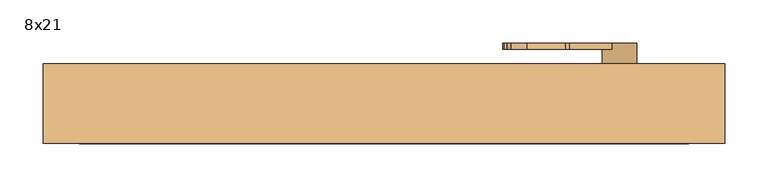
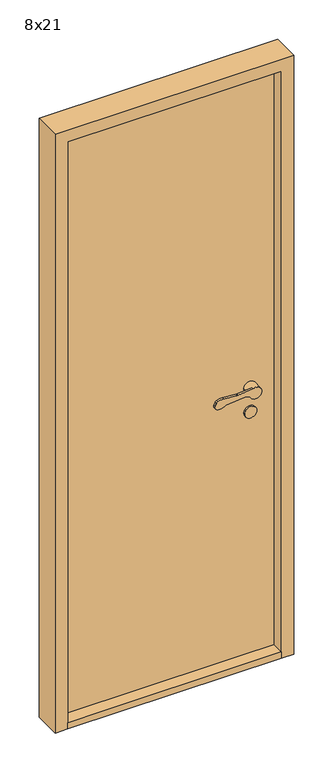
"""IFC4 building model written with IfcOpenShell, lengths in millimetres: door geometry, Innerdør Slett (Diplomat) : 8x21."""

from ifc_helpers import new_model, si_unit, point, frame, frame_2d, origin, origin_with_axes, place, context, project, spatial, polyline, circle_curve, trimmed, segment, composite_curve, outline, extrude, source, transform, mapped, element, save
from ifc_brep_helpers import plane_surface, cylinder_surface, revolved_surface, advanced_brep


def door_8x21_e5ab1b51(model_context):
    return source(origin(), model_context, "Body", "SolidModel", [
        advanced_brep(
        [(293.9611305, -9.0, 949.1175955), (308.3841161, -9.0, 942.6204086), (346.379633, -9.0, 951.3474568), (317.2687793, -9.0, 969.1517356), (268.6891233, -9.0, 964.26032), (263.6202158, -9.0, 964.1804415), (218.8963175, -9.0, 967.2639242), (200.3175669, -9.0, 964.8810513), (195.505009, -9.0, 959.9624074), (191.8691983, -9.0, 951.8913379), (196.721536, -9.0, 938.7393398), (226.0476109, -9.0, 943.6260011), (288.8520664, -9.0, 949.9496913), (268.6891233, -1.8915284, 964.26032), (317.2687793, -1.8915284, 969.1517356), (306.379633, -1.8915284, 951.3474568), (308.3841161, -1.8915284, 942.6204086), (293.9611305, -1.8915284, 949.1175955), (288.8520664, -1.8915284, 949.9496913), (226.0476109, -1.8915284, 943.6260011), (196.721536, -1.8915284, 938.7393398), (191.8691983, -1.8915284, 951.8913379), (195.505009, -1.8915284, 959.9624074), (200.3175669, -1.8915284, 964.8810513), (218.8963175, -1.8915284, 967.2639242), (263.6202158, -1.8915284, 964.1804415), (346.379633, 26.0, 951.3474568), (306.379633, 26.0, 951.3474568)],
        [
            (0, 1),
            (1, 2, circle_curve(frame((326.379633, -9.0, 951.3474568), z_axis=(0.0, -1.0, 0.0), x_axis=(-1.0, 0.0, 0.0)), 20.0)),
            (2, 3, circle_curve(frame((326.379633, -9.0, 951.3474568), z_axis=(0.0, -1.0, 0.0), x_axis=(-1.0, 0.0, 0.0)), 20.0)),
            (3, 4),
            (4, 5, circle_curve(frame((265.683663, -9.0, 994.1093938), z_axis=(0.0, 1.0, 0.0), x_axis=(-0.9949691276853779, 0.0, -0.10018200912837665)), 30.0)),
            (5, 6),
            (6, 7, circle_curve(frame((213.2326797, -9.0, 937.8033877), z_axis=(0.0, -1.0, 0.0), x_axis=(-0.9949691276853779, 0.0, -0.10018200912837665)), 30.0)),
            (7, 8, circle_curve(frame((204.6226045, -9.0, 955.8551634), z_axis=(0.0, -1.0, 0.0), x_axis=(-0.9949691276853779, 0.0, -0.10018200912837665)), 10.0)),
            (8, 9),
            (9, 10, circle_curve(frame((200.9867937, -9.0, 947.7840939), z_axis=(0.0, -1.0, 0.0), x_axis=(-0.9949691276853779, 0.0, -0.10018200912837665)), 10.0)),
            (10, 11, circle_curve(frame((207.8569644, -9.0, 962.352734), z_axis=(0.0, -1.0, 0.0), x_axis=(-0.9949691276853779, 0.0, -0.10018200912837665)), 26.1072815)),
            (11, 12),
            (12, 0, circle_curve(frame((289.8538865, -9.0, 940.0), z_axis=(0.0, 1.0, 0.0), x_axis=(-0.9949691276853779, 0.0, -0.10018200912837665)), 10.0)),
            (13, 14),
            (14, 15, circle_curve(frame((326.379633, -1.8915284, 951.3474568), z_axis=(0.0, -1.0, 0.0), x_axis=(-1.0, 0.0, 0.0)), 20.0)),
            (15, 16, circle_curve(frame((326.379633, -1.8915284, 951.3474568), z_axis=(0.0, -1.0, 0.0), x_axis=(-1.0, 0.0, 0.0)), 20.0)),
            (16, 17),
            (17, 18, circle_curve(frame((289.8538865, -1.8915284, 940.0), z_axis=(0.0, -1.0, 0.0), x_axis=(-0.9949691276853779, 0.0, -0.10018200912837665)), 10.0)),
            (18, 19),
            (19, 20, circle_curve(frame((207.8569644, -1.8915284, 962.352734), z_axis=(0.0, 1.0, 0.0), x_axis=(-0.9949691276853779, 0.0, -0.10018200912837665)), 26.1072815)),
            (20, 21, circle_curve(frame((200.9867937, -1.8915284, 947.7840939), z_axis=(0.0, 1.0, 0.0), x_axis=(-0.9949691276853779, 0.0, -0.10018200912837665)), 10.0)),
            (21, 22),
            (22, 23, circle_curve(frame((204.6226045, -1.8915284, 955.8551634), z_axis=(0.0, 1.0, 0.0), x_axis=(-0.9949691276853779, 0.0, -0.10018200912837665)), 10.0)),
            (23, 24, circle_curve(frame((213.2326797, -1.8915284, 937.8033877), z_axis=(0.0, 1.0, 0.0), x_axis=(-0.9949691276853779, 0.0, -0.10018200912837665)), 30.0)),
            (24, 25),
            (25, 13, circle_curve(frame((265.683663, -1.8915284, 994.1093938), z_axis=(0.0, -1.0, 0.0), x_axis=(-0.9949691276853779, 0.0, -0.10018200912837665)), 30.0)),
            (3, 14),
            (13, 4),
            (16, 1),
            (0, 17),
            (12, 18),
            (11, 19),
            (10, 20),
            (9, 21),
            (8, 22),
            (7, 23),
            (6, 24),
            (5, 25),
            (26, 27, circle_curve(frame((326.379633, 26.0, 951.3474568), z_axis=(0.0, 1.0, 0.0), x_axis=(-1.0, 0.0, 0.0)), 20.0)),
            (27, 26, circle_curve(frame((326.379633, 26.0, 951.3474568), z_axis=(0.0, 1.0, 0.0), x_axis=(-1.0, 0.0, 0.0)), 20.0)),
            (26, 2),
            (15, 27),
        ],
        [
            plane_surface(frame((317.6960588, -9.0, 969.1947577), z_axis=(0.0, -1.0000000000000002, 0.0), x_axis=(0.9949691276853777, 0.0, 0.10018200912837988))),
            plane_surface(frame((317.6960588, -1.8915284, 969.1947577), z_axis=(0.0, 1.0000000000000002, 0.0), x_axis=(-0.9949691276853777, 0.0, -0.10018200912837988))),
            plane_surface(frame((268.6891233, -9.0, 964.26032), z_axis=(-0.10018200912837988, 0.0, 0.9949691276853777), x_axis=(0.0, 1.0, 0.0))),
            plane_surface(frame((326.9687366, -9.0, 934.2485115), z_axis=(-0.41072439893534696, 0.0, -0.91175954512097), x_axis=(0.0, 1.0, 0.0))),
            revolved_surface(polyline([(279.9041952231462, -1.8915284, 938.9981799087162), (279.9041952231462, -9.0, 938.9981799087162)]), (289.8538865, -1.8915284, 940.0), (0.0, 1.0, 0.0)),
            plane_surface(frame((288.8520664, -9.0, 949.9496913), z_axis=(0.10018200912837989, 0.0, -0.9949691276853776), x_axis=(0.0, 1.0, 0.0))),
            cylinder_surface(frame((207.8569644, -1.8915284, 962.352734), z_axis=(0.0, -1.0, 0.0), x_axis=(-0.9949691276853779, 0.0, -0.10018200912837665)), 26.1072815),
            cylinder_surface(frame((200.9867937, -1.8915284, 947.7840939), z_axis=(0.0, -1.0, 0.0), x_axis=(-0.9949691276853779, 0.0, -0.10018200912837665)), 10.0),
            plane_surface(frame((191.8691983, -9.0, 951.8913379), z_axis=(-0.9117595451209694, 0.0, 0.41072439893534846), x_axis=(0.0, 1.0, 0.0))),
            cylinder_surface(frame((204.6226045, -1.8915284, 955.8551634), z_axis=(0.0, -1.0, 0.0), x_axis=(-0.9949691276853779, 0.0, -0.10018200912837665)), 10.0),
            cylinder_surface(frame((213.2326797, -1.8915284, 937.8033877), z_axis=(0.0, -1.0, 0.0), x_axis=(-0.9949691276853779, 0.0, -0.10018200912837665)), 30.0),
            plane_surface(frame((218.8963175, -9.0, 967.2639242), z_axis=(0.06878157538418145, 0.0, 0.9976317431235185), x_axis=(0.0, 1.0, 0.0))),
            revolved_surface(polyline([(235.8345891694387, -1.8915284, 991.1039335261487), (235.8345891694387, -9.0, 991.1039335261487)]), (265.683663, -1.8915284, 994.1093938), (0.0, 1.0, 0.0)),
            plane_surface(frame((306.379633, 26.0, 951.3474568), z_axis=(0.0, 1.0, 0.0), x_axis=(0.0, 0.0, -1.0))),
            cylinder_surface(frame((326.379633, 26.0, 951.3474568), z_axis=(0.0, -1.0, 0.0), x_axis=(-1.0, 0.0, 0.0)), 20.0),
        ],
        [
            (0, [[1, 2, 3, 4, 5, 6, 7, 8, 9, 10, 11, 12, 13]]),
            (1, [[14, 15, 16, 17, 18, 19, 20, 21, 22, 23, 24, 25, 26]]),
            (2, [[-4, 27, -14, 28]]),
            (3, [[-17, 29, -1, 30]]),
            (4, [[31, -18, -30, -13]]),
            (5, [[32, -19, -31, -12]]),
            (6, [[33, -20, -32, -11]]),
            (7, [[34, -21, -33, -10]]),
            (8, [[35, -22, -34, -9]]),
            (9, [[36, -23, -35, -8]]),
            (10, [[37, -24, -36, -7]]),
            (11, [[38, -25, -37, -6]]),
            (12, [[-28, -26, -38, -5]]),
            (13, [[39, 40]]),
            (14, [[41, -2, -29, -16, 42, -39]]),
            (14, [[-42, -15, -27, -3, -41, -40]]),
        ],
    ),
        extrude(outline(composite_curve([segment(trimmed(circle_curve(frame_2d((866.3474568, 326.379633)), 20.0), [point((866.3474568, 346.379633))], [point((866.3474568, 306.379633))], False, "CARTESIAN"), True, "CONTINUOUS"), segment(trimmed(circle_curve(frame_2d((866.3474568, 326.379633)), 20.0), [point((866.3474568, 306.379633))], [point((866.3474568, 346.379633))], False, "CARTESIAN"), True, "CONTINUOUS")], self_intersect=False)), frame((0.0, 21.0, 0.0), z_axis=(0.0, 1.0, 0.0), x_axis=(0.0, 0.0, 1.0)), (0.0, 0.0, 1.0), 5.0),
        advanced_brep(
        [(293.9611305, 100.0, 949.1175955), (288.8520664, 100.0, 949.9496913), (226.0476109, 100.0, 943.6260011), (196.721536, 100.0, 938.7393398), (191.8691983, 100.0, 951.8913379), (195.505009, 100.0, 959.9624074), (200.3175669, 100.0, 964.8810513), (218.8963175, 100.0, 967.2639242), (263.6202158, 100.0, 964.1804415), (268.6891233, 100.0, 964.26032), (317.2687793, 100.0, 969.1517356), (346.379633, 100.0, 951.3474568), (308.3841161, 100.0, 942.6204086), (268.6891233, 92.8915284, 964.26032), (263.6202158, 92.8915284, 964.1804415), (218.8963175, 92.8915284, 967.2639242), (200.3175669, 92.8915284, 964.8810513), (195.505009, 92.8915284, 959.9624074), (191.8691983, 92.8915284, 951.8913379), (196.721536, 92.8915284, 938.7393398), (226.0476109, 92.8915284, 943.6260011), (288.8520664, 92.8915284, 949.9496913), (293.9611305, 92.8915284, 949.1175955), (308.3841161, 92.8915284, 942.6204086), (306.379633, 92.8915284, 951.3474568), (317.2687793, 92.8915284, 969.1517356), (346.379633, 65.0, 951.3474568), (306.379633, 65.0, 951.3474568)],
        [
            (0, 1, circle_curve(frame((289.8538865, 100.0, 940.0), z_axis=(0.0, -1.0, 0.0), x_axis=(-0.9949691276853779, 0.0, -0.10018200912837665)), 10.0)),
            (1, 2),
            (2, 3, circle_curve(frame((207.8569644, 100.0, 962.352734), z_axis=(0.0, 1.0, 0.0), x_axis=(-0.9949691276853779, 0.0, -0.10018200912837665)), 26.1072815)),
            (3, 4, circle_curve(frame((200.9867937, 100.0, 947.7840939), z_axis=(0.0, 1.0, 0.0), x_axis=(-0.9949691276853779, 0.0, -0.10018200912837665)), 10.0)),
            (4, 5),
            (5, 6, circle_curve(frame((204.6226045, 100.0, 955.8551634), z_axis=(0.0, 1.0, 0.0), x_axis=(-0.9949691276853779, 0.0, -0.10018200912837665)), 10.0)),
            (6, 7, circle_curve(frame((213.2326797, 100.0, 937.8033877), z_axis=(0.0, 1.0, 0.0), x_axis=(-0.9949691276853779, 0.0, -0.10018200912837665)), 30.0)),
            (7, 8),
            (8, 9, circle_curve(frame((265.683663, 100.0, 994.1093938), z_axis=(0.0, -1.0, 0.0), x_axis=(-0.9949691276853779, 0.0, -0.10018200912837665)), 30.0)),
            (9, 10),
            (10, 11, circle_curve(frame((326.379633, 100.0, 951.3474568), z_axis=(0.0, 1.0, 0.0), x_axis=(-1.0, 0.0, 0.0)), 20.0)),
            (11, 12, circle_curve(frame((326.379633, 100.0, 951.3474568), z_axis=(0.0, 1.0, 0.0), x_axis=(-1.0, 0.0, 0.0)), 20.0)),
            (12, 0),
            (13, 14, circle_curve(frame((265.683663, 92.8915284, 994.1093938), z_axis=(0.0, 1.0, 0.0), x_axis=(-0.9949691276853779, 0.0, -0.10018200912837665)), 30.0)),
            (14, 15),
            (15, 16, circle_curve(frame((213.2326797, 92.8915284, 937.8033877), z_axis=(0.0, -1.0, 0.0), x_axis=(-0.9949691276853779, 0.0, -0.10018200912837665)), 30.0)),
            (16, 17, circle_curve(frame((204.6226045, 92.8915284, 955.8551634), z_axis=(0.0, -1.0, 0.0), x_axis=(-0.9949691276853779, 0.0, -0.10018200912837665)), 10.0)),
            (17, 18),
            (18, 19, circle_curve(frame((200.9867937, 92.8915284, 947.7840939), z_axis=(0.0, -1.0, 0.0), x_axis=(-0.9949691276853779, 0.0, -0.10018200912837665)), 10.0)),
            (19, 20, circle_curve(frame((207.8569644, 92.8915284, 962.352734), z_axis=(0.0, -1.0, 0.0), x_axis=(-0.9949691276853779, 0.0, -0.10018200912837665)), 26.1072815)),
            (20, 21),
            (21, 22, circle_curve(frame((289.8538865, 92.8915284, 940.0), z_axis=(0.0, 1.0, 0.0), x_axis=(-0.9949691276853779, 0.0, -0.10018200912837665)), 10.0)),
            (22, 23),
            (23, 24, circle_curve(frame((326.379633, 92.8915284, 951.3474568), z_axis=(0.0, 1.0, 0.0), x_axis=(-1.0, 0.0, 0.0)), 20.0)),
            (24, 25, circle_curve(frame((326.379633, 92.8915284, 951.3474568), z_axis=(0.0, 1.0, 0.0), x_axis=(-1.0, 0.0, 0.0)), 20.0)),
            (25, 13),
            (9, 13),
            (25, 10),
            (22, 0),
            (12, 23),
            (21, 1),
            (20, 2),
            (19, 3),
            (18, 4),
            (17, 5),
            (16, 6),
            (15, 7),
            (14, 8),
            (26, 27, circle_curve(frame((326.379633, 65.0, 951.3474568), z_axis=(0.0, -1.0, 0.0), x_axis=(-1.0, 0.0, 0.0)), 20.0)),
            (27, 26, circle_curve(frame((326.379633, 65.0, 951.3474568), z_axis=(0.0, -1.0, 0.0), x_axis=(-1.0, 0.0, 0.0)), 20.0)),
            (27, 24),
            (11, 26),
        ],
        [
            plane_surface(frame((317.6960588, 100.0, 969.1947577), z_axis=(0.0, 1.0000000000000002, 0.0), x_axis=(0.9949691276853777, 0.0, 0.10018200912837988))),
            plane_surface(frame((317.6960588, 92.8915284, 969.1947577), z_axis=(0.0, -1.0000000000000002, 0.0), x_axis=(-0.9949691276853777, 0.0, -0.10018200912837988))),
            plane_surface(frame((268.6891233, 100.0, 964.26032), z_axis=(-0.10018200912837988, 0.0, 0.9949691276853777), x_axis=(0.0, -1.0, 0.0))),
            plane_surface(frame((326.9687366, 100.0, 934.2485115), z_axis=(-0.41072439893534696, 0.0, -0.91175954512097), x_axis=(0.0, -1.0, 0.0))),
            revolved_surface(polyline([(279.9041952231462, 92.8915284, 938.9981799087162), (279.9041952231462, 100.0, 938.9981799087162)]), (289.8538865, 92.8915284, 940.0), (0.0, -1.0, 0.0)),
            plane_surface(frame((288.8520664, 100.0, 949.9496913), z_axis=(0.10018200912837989, 0.0, -0.9949691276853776), x_axis=(0.0, -1.0, 0.0))),
            cylinder_surface(frame((207.8569644, 92.8915284, 962.352734), z_axis=(0.0, 1.0, 0.0), x_axis=(-0.9949691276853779, 0.0, -0.10018200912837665)), 26.1072815),
            cylinder_surface(frame((200.9867937, 92.8915284, 947.7840939), z_axis=(0.0, 1.0, 0.0), x_axis=(-0.9949691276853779, 0.0, -0.10018200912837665)), 10.0),
            plane_surface(frame((191.8691983, 100.0, 951.8913379), z_axis=(-0.9117595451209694, 0.0, 0.41072439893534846), x_axis=(0.0, -1.0, 0.0))),
            cylinder_surface(frame((204.6226045, 92.8915284, 955.8551634), z_axis=(0.0, 1.0, 0.0), x_axis=(-0.9949691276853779, 0.0, -0.10018200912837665)), 10.0),
            cylinder_surface(frame((213.2326797, 92.8915284, 937.8033877), z_axis=(0.0, 1.0, 0.0), x_axis=(-0.9949691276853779, 0.0, -0.10018200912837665)), 30.0),
            plane_surface(frame((218.8963175, 100.0, 967.2639242), z_axis=(0.06878157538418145, 0.0, 0.9976317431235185), x_axis=(0.0, -1.0, 0.0))),
            revolved_surface(polyline([(235.8345891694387, 92.8915284, 991.1039335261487), (235.8345891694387, 100.0, 991.1039335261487)]), (265.683663, 92.8915284, 994.1093938), (0.0, -1.0, 0.0)),
            plane_surface(frame((306.379633, 65.0, 951.3474568), z_axis=(0.0, -1.0, 0.0), x_axis=(0.0, 0.0, -1.0))),
            cylinder_surface(frame((326.379633, 65.0, 951.3474568), z_axis=(0.0, 1.0, 0.0), x_axis=(-1.0, 0.0, 0.0)), 20.0),
        ],
        [
            (0, [[1, 2, 3, 4, 5, 6, 7, 8, 9, 10, 11, 12, 13]]),
            (1, [[14, 15, 16, 17, 18, 19, 20, 21, 22, 23, 24, 25, 26]]),
            (2, [[27, -26, 28, -10]]),
            (3, [[29, -13, 30, -23]]),
            (4, [[-1, -29, -22, 31]]),
            (5, [[-2, -31, -21, 32]]),
            (6, [[-3, -32, -20, 33]]),
            (7, [[-4, -33, -19, 34]]),
            (8, [[-5, -34, -18, 35]]),
            (9, [[-6, -35, -17, 36]]),
            (10, [[-7, -36, -16, 37]]),
            (11, [[-8, -37, -15, 38]]),
            (12, [[-9, -38, -14, -27]]),
            (13, [[39, 40]]),
            (14, [[-40, 41, -24, -30, -12, 42]]),
            (14, [[-39, -42, -11, -28, -25, -41]]),
        ],
    ),
        extrude(outline(composite_curve([segment(trimmed(circle_curve(frame_2d((866.3474568, 326.379633)), 20.0), [point((866.3474568, 346.379633))], [point((866.3474568, 306.379633))], False, "CARTESIAN"), True, "CONTINUOUS"), segment(trimmed(circle_curve(frame_2d((866.3474568, 326.379633)), 20.0), [point((866.3474568, 306.379633))], [point((866.3474568, 346.379633))], False, "CARTESIAN"), True, "CONTINUOUS")], self_intersect=False)), frame((0.0, 65.0, 0.0), z_axis=(0.0, 1.0, 0.0), x_axis=(0.0, 0.0, 1.0)), (0.0, 0.0, 1.0), 5.0),
        extrude(outline(polyline([(406.379633, -16.0), (-299.620367, -16.0), (-299.620367, 76.0), (406.379633, 76.0), (406.379633, -16.0)])), origin_with_axes(), (0.0, 0.0, 1.0), 22.0),
        extrude(outline(polyline([(406.379633, 26.0), (-299.620367, 26.0), (-299.620367, 76.0), (406.379633, 76.0), (406.379633, 26.0)])), frame((0.0, 0.0, 22.0), z_axis=(0.0, 0.0, 1.0), x_axis=(1.0, 0.0, 0.0)), (0.0, 0.0, 1.0), 2031.0),
        extrude(outline(polyline([(0.0, -341.620367), (0.0, -299.620367), (2053.0, -299.620367), (2053.0, 406.379633), (0.0, 406.379633), (0.0, 448.379633), (2095.0, 448.379633), (2095.0, -341.620367), (0.0, -341.620367)])), frame((0.0, -16.0, 0.0), z_axis=(0.0, 1.0, 0.0), x_axis=(0.0, 0.0, 1.0)), (0.0, 0.0, 1.0), 92.0),
    ])


if __name__ == "__main__":
    model = new_model("IFC4")
    model_context = context("Model", 3, world=origin())
    ifc_project = project(units=[si_unit("LENGTHUNIT", "METRE", prefix="MILLI")], contexts=[model_context])
    site = spatial("IfcSite", under=ifc_project)
    building = spatial("IfcBuilding", under=site)
    placement = place(None, origin())
    door_8x21_shape = door_8x21_e5ab1b51(model_context)
    element("IfcDoor", 1, ObjectType="Innerdør Slett (Diplomat) : 8x21", at=placement, inside=building, context=model_context, shape_type="MappedRepresentation", body=[
        mapped(door_8x21_shape, transform((0.0, 0.0, 0.0), x_axis=(1.0, 0.0, 0.0), y_axis=(0.0, 1.0, 0.0), z_axis=(0.0, 0.0, 1.0))),
    ])
    save(model, "model.ifc")
